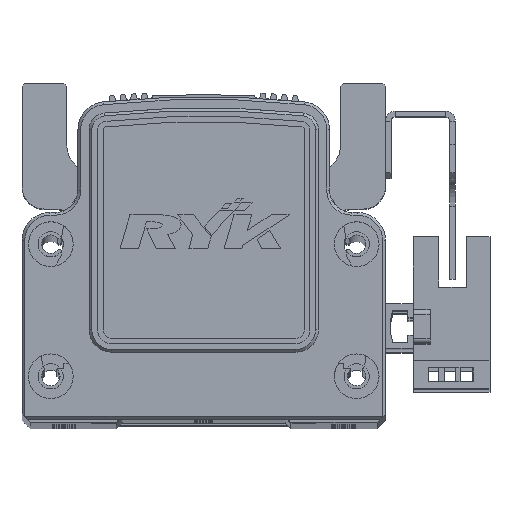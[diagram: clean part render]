
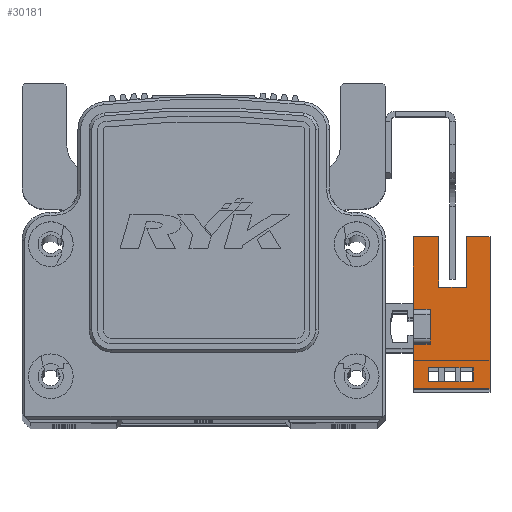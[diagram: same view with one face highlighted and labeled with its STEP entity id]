
A CAD part, top view. The second image highlights one B-rep face of the part: STEP entity #30181.
In plain terms, the highlighted planar face has unit normal (0, 0, 1) as drawn and (1, 0, 0) by its records, which use the part's own axes.
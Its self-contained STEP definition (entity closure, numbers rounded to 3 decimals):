
#1853 = EDGE_LOOP ( 'NONE', ( #12044, #12009, #12018, #11999 ) ) ;
#3488 = EDGE_LOOP ( 'NONE', ( #12093, #12089, #12075, #12006, #12090, #12108, #12067, #12070, #12059, #12050, #12017, #12054 ) ) ;
#5692 = AXIS2_PLACEMENT_3D ( 'NONE', #33593, #33563, #33598 ) ;
#6862 = VERTEX_POINT ( 'NONE', #38983 ) ;
#6892 = VERTEX_POINT ( 'NONE', #39004 ) ;
#7128 = VERTEX_POINT ( 'NONE', #39312 ) ;
#7164 = VERTEX_POINT ( 'NONE', #39374 ) ;
#7165 = VERTEX_POINT ( 'NONE', #39375 ) ;
#7170 = VERTEX_POINT ( 'NONE', #39425 ) ;
#7187 = VERTEX_POINT ( 'NONE', #39431 ) ;
#7191 = VERTEX_POINT ( 'NONE', #39394 ) ;
#7216 = VERTEX_POINT ( 'NONE', #39403 ) ;
#7220 = VERTEX_POINT ( 'NONE', #39405 ) ;
#7221 = VERTEX_POINT ( 'NONE', #39407 ) ;
#7223 = VERTEX_POINT ( 'NONE', #39408 ) ;
#7227 = VERTEX_POINT ( 'NONE', #39439 ) ;
#7229 = VERTEX_POINT ( 'NONE', #39443 ) ;
#7234 = VERTEX_POINT ( 'NONE', #39468 ) ;
#7236 = VERTEX_POINT ( 'NONE', #39499 ) ;
#7312 = CARTESIAN_POINT ( 'NONE',  ( 3.2, 16.1, -10.7 ) ) ;
#7332 = CARTESIAN_POINT ( 'NONE',  ( 3.2, 7.1, -6.5 ) ) ;
#7341 = DIRECTION ( 'NONE',  ( 0., 0., 1. ) ) ;
#7346 = DIRECTION ( 'NONE',  ( 0., 1., 0. ) ) ;
#7348 = DIRECTION ( 'NONE',  ( 0., 1., 0. ) ) ;
#7350 = DIRECTION ( 'NONE',  ( 0., 1., 0. ) ) ;
#7351 = DIRECTION ( 'NONE',  ( 0., -1., 0. ) ) ;
#7353 = CARTESIAN_POINT ( 'NONE',  ( 3.2, 0., 0. ) ) ;
#7355 = CARTESIAN_POINT ( 'NONE',  ( 3.2, 16.1, -10.7 ) ) ;
#7358 = CARTESIAN_POINT ( 'NONE',  ( 3.2, 16.1, -7.7 ) ) ;
#7359 = CARTESIAN_POINT ( 'NONE',  ( 3.2, 16.1, 0.3 ) ) ;
#7368 = DIRECTION ( 'NONE',  ( 0., 0., 1. ) ) ;
#7375 = DIRECTION ( 'NONE',  ( 0., -1., 0. ) ) ;
#7383 = CARTESIAN_POINT ( 'NONE',  ( 3.2, 25.1, -6.5 ) ) ;
#7384 = CARTESIAN_POINT ( 'NONE',  ( 3.2, -7.33, -10.7 ) ) ;
#7428 = DIRECTION ( 'NONE',  ( 0., 0., 1. ) ) ;
#7458 = DIRECTION ( 'NONE',  ( 0., 0., -1. ) ) ;
#7467 = CARTESIAN_POINT ( 'NONE',  ( 3.2, -9.83, -10.7 ) ) ;
#7504 = CARTESIAN_POINT ( 'NONE',  ( 3.2, -11.1, 3. ) ) ;
#7505 = DIRECTION ( 'NONE',  ( 0., 0., 1. ) ) ;
#7517 = DIRECTION ( 'NONE',  ( 0., 1., 0. ) ) ;
#7519 = CARTESIAN_POINT ( 'NONE',  ( 3.2, 25.1, -1.5 ) ) ;
#9557 = EDGE_CURVE ( 'NONE', #7128, #7165, #12318, .T. ) ;
#9576 = EDGE_CURVE ( 'NONE', #7236, #7227, #12338, .T. ) ;
#9615 = EDGE_CURVE ( 'NONE', #7223, #7229, #12410, .T. ) ;
#9627 = EDGE_CURVE ( 'NONE', #7221, #7164, #12440, .T. ) ;
#9635 = EDGE_CURVE ( 'NONE', #7216, #7170, #12430, .T. ) ;
#9639 = EDGE_CURVE ( 'NONE', #7165, #7236, #10589, .T. ) ;
#9642 = EDGE_CURVE ( 'NONE', #6862, #7216, #10234, .T. ) ;
#9643 = EDGE_CURVE ( 'NONE', #6892, #6862, #10227, .T. ) ;
#9648 = EDGE_CURVE ( 'NONE', #7187, #7223, #10220, .T. ) ;
#9650 = EDGE_CURVE ( 'NONE', #7220, #7234, #10281, .T. ) ;
#9674 = EDGE_CURVE ( 'NONE', #7170, #6892, #10310, .T. ) ;
#9705 = EDGE_CURVE ( 'NONE', #7221, #7191, #10393, .T. ) ;
#9710 = EDGE_CURVE ( 'NONE', #7229, #7220, #10375, .T. ) ;
#10220 = LINE ( 'NONE', #7383, #10279 ) ;
#10224 = VECTOR ( 'NONE', #7368, 1000. ) ;
#10227 = LINE ( 'NONE', #7358, #10229 ) ;
#10229 = VECTOR ( 'NONE', #7350, 1000. ) ;
#10234 = LINE ( 'NONE', #7384, #10224 ) ;
#10262 = VECTOR ( 'NONE', #7428, 1000. ) ;
#10279 = VECTOR ( 'NONE', #7375, 1000. ) ;
#10281 = LINE ( 'NONE', #7355, #10262 ) ;
#10310 = LINE ( 'NONE', #7467, #10321 ) ;
#10321 = VECTOR ( 'NONE', #7458, 1000. ) ;
#10375 = LINE ( 'NONE', #7519, #10376 ) ;
#10376 = VECTOR ( 'NONE', #7517, 1000. ) ;
#10393 = LINE ( 'NONE', #7504, #10398 ) ;
#10398 = VECTOR ( 'NONE', #7505, 1000. ) ;
#10589 = LINE ( 'NONE', #7353, #10590 ) ;
#10590 = VECTOR ( 'NONE', #7348, 1000. ) ;
#11999 = ORIENTED_EDGE ( 'NONE', *, *, #9674, .F. ) ;
#12006 = ORIENTED_EDGE ( 'NONE', *, *, #9650, .T. ) ;
#12009 = ORIENTED_EDGE ( 'NONE', *, *, #9642, .F. ) ;
#12017 = ORIENTED_EDGE ( 'NONE', *, *, #9627, .T. ) ;
#12018 = ORIENTED_EDGE ( 'NONE', *, *, #9643, .F. ) ;
#12044 = ORIENTED_EDGE ( 'NONE', *, *, #9635, .F. ) ;
#12050 = ORIENTED_EDGE ( 'NONE', *, *, #9705, .F. ) ;
#12054 = ORIENTED_EDGE ( 'NONE', *, *, #32840, .T. ) ;
#12059 = ORIENTED_EDGE ( 'NONE', *, *, #32809, .F. ) ;
#12067 = ORIENTED_EDGE ( 'NONE', *, *, #9639, .F. ) ;
#12070 = ORIENTED_EDGE ( 'NONE', *, *, #9557, .F. ) ;
#12075 = ORIENTED_EDGE ( 'NONE', *, *, #9710, .T. ) ;
#12089 = ORIENTED_EDGE ( 'NONE', *, *, #9615, .T. ) ;
#12090 = ORIENTED_EDGE ( 'NONE', *, *, #32817, .F. ) ;
#12093 = ORIENTED_EDGE ( 'NONE', *, *, #9648, .T. ) ;
#12108 = ORIENTED_EDGE ( 'NONE', *, *, #9576, .F. ) ;
#12315 = VECTOR ( 'NONE', #37201, 1000. ) ;
#12318 = LINE ( 'NONE', #37176, #12315 ) ;
#12330 = VECTOR ( 'NONE', #37248, 1000. ) ;
#12338 = LINE ( 'NONE', #37247, #12330 ) ;
#12410 = LINE ( 'NONE', #7332, #12411 ) ;
#12411 = VECTOR ( 'NONE', #7341, 1000. ) ;
#12430 = LINE ( 'NONE', #7359, #12434 ) ;
#12434 = VECTOR ( 'NONE', #7351, 1000. ) ;
#12440 = LINE ( 'NONE', #7312, #12443 ) ;
#12443 = VECTOR ( 'NONE', #7346, 1000. ) ;
#20927 = FACE_OUTER_BOUND ( 'NONE', #3488, .T. ) ;
#20970 = FACE_BOUND ( 'NONE', #1853, .T. ) ;
#22813 = VECTOR ( 'NONE', #25122, 1000. ) ;
#22822 = VECTOR ( 'NONE', #25144, 1000. ) ;
#22829 = LINE ( 'NONE', #25066, #22822 ) ;
#22836 = LINE ( 'NONE', #25110, #22813 ) ;
#22886 = LINE ( 'NONE', #25246, #22888 ) ;
#22888 = VECTOR ( 'NONE', #25227, 1000. ) ;
#25066 = CARTESIAN_POINT ( 'NONE',  ( 3.2, 16.1, 3. ) ) ;
#25110 = CARTESIAN_POINT ( 'NONE',  ( 3.2, 16.1, 3. ) ) ;
#25122 = DIRECTION ( 'NONE',  ( 0., 1., 0. ) ) ;
#25144 = DIRECTION ( 'NONE',  ( 0., 1., 0. ) ) ;
#25227 = DIRECTION ( 'NONE',  ( 0., 0., 1. ) ) ;
#25246 = CARTESIAN_POINT ( 'NONE',  ( 3.2, 16.1, -10.7 ) ) ;
#30181 = ADVANCED_FACE ( 'NONE', ( #20927, #20970 ), #33592, .T. ) ;
#32809 = EDGE_CURVE ( 'NONE', #7191, #7128, #22829, .T. ) ;
#32817 = EDGE_CURVE ( 'NONE', #7227, #7234, #22836, .T. ) ;
#32840 = EDGE_CURVE ( 'NONE', #7164, #7187, #22886, .T. ) ;
#33563 = DIRECTION ( 'NONE',  ( 1., 0., 0. ) ) ;
#33592 = PLANE ( 'NONE',  #5692 ) ;
#33593 = CARTESIAN_POINT ( 'NONE',  ( 3.2, 16.1, -10.7 ) ) ;
#33598 = DIRECTION ( 'NONE',  ( 0., 1., 0. ) ) ;
#37176 = CARTESIAN_POINT ( 'NONE',  ( 3.2, -3.1, 3. ) ) ;
#37201 = DIRECTION ( 'NONE',  ( 0., 0., -1. ) ) ;
#37247 = CARTESIAN_POINT ( 'NONE',  ( 3.2, 3.1, 3. ) ) ;
#37248 = DIRECTION ( 'NONE',  ( 0., 0., 1. ) ) ;
#38983 = CARTESIAN_POINT ( 'NONE',  ( 3.2, -7.33, -7.7 ) ) ;
#39004 = CARTESIAN_POINT ( 'NONE',  ( 3.2, -9.83, -7.7 ) ) ;
#39312 = CARTESIAN_POINT ( 'NONE',  ( 3.2, -3.1, 3. ) ) ;
#39374 = CARTESIAN_POINT ( 'NONE',  ( 3.2, 16.1, -10.7 ) ) ;
#39375 = CARTESIAN_POINT ( 'NONE',  ( 3.2, -3.1, 0. ) ) ;
#39394 = CARTESIAN_POINT ( 'NONE',  ( 3.2, -11.1, 3. ) ) ;
#39403 = CARTESIAN_POINT ( 'NONE',  ( 3.2, -7.33, 0.3 ) ) ;
#39405 = CARTESIAN_POINT ( 'NONE',  ( 3.2, 16.1, -1.5 ) ) ;
#39407 = CARTESIAN_POINT ( 'NONE',  ( 3.2, -11.1, -10.7 ) ) ;
#39408 = CARTESIAN_POINT ( 'NONE',  ( 3.2, 7.1, -6.5 ) ) ;
#39425 = CARTESIAN_POINT ( 'NONE',  ( 3.2, -9.83, 0.3 ) ) ;
#39431 = CARTESIAN_POINT ( 'NONE',  ( 3.2, 16.1, -6.5 ) ) ;
#39439 = CARTESIAN_POINT ( 'NONE',  ( 3.2, 3.1, 3. ) ) ;
#39443 = CARTESIAN_POINT ( 'NONE',  ( 3.2, 7.1, -1.5 ) ) ;
#39468 = CARTESIAN_POINT ( 'NONE',  ( 3.2, 16.1, 3. ) ) ;
#39499 = CARTESIAN_POINT ( 'NONE',  ( 3.2, 3.1, 0. ) ) ;
